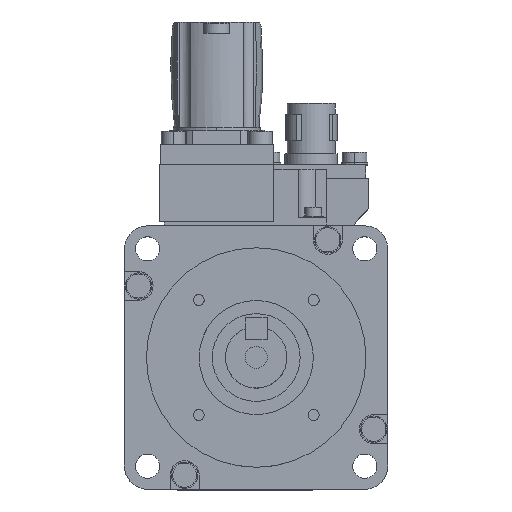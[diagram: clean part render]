
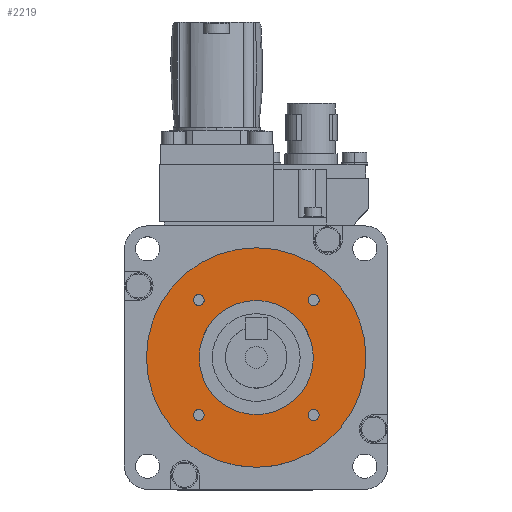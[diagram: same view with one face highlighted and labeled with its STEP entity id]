
A CAD part, top view. The second image highlights one B-rep face of the part: STEP entity #2219.
In plain terms, the highlighted planar face has unit normal (0, 0, 1).
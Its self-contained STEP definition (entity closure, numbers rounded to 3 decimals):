
#211 = VERTEX_POINT ( 'NONE', #6034 ) ;
#212 = EDGE_CURVE ( 'NONE', #215, #211, #6033, .T. ) ;
#215 = VERTEX_POINT ( 'NONE', #6088 ) ;
#245 = EDGE_CURVE ( 'NONE', #257, #259, #6092, .T. ) ;
#257 = VERTEX_POINT ( 'NONE', #6135 ) ;
#259 = VERTEX_POINT ( 'NONE', #6134 ) ;
#266 = VERTEX_POINT ( 'NONE', #6187 ) ;
#279 = VERTEX_POINT ( 'NONE', #6165 ) ;
#280 = EDGE_CURVE ( 'NONE', #279, #266, #6164, .T. ) ;
#303 = VERTEX_POINT ( 'NONE', #6244 ) ;
#304 = VERTEX_POINT ( 'NONE', #6243 ) ;
#312 = EDGE_CURVE ( 'NONE', #304, #303, #6236, .T. ) ;
#551 = EDGE_CURVE ( 'NONE', #828, #757, #6700, .T. ) ;
#677 = VERTEX_POINT ( 'NONE', #6907 ) ;
#681 = VERTEX_POINT ( 'NONE', #6902 ) ;
#685 = EDGE_CURVE ( 'NONE', #681, #677, #6967, .T. ) ;
#757 = VERTEX_POINT ( 'NONE', #7073 ) ;
#828 = VERTEX_POINT ( 'NONE', #7247 ) ;
#2170 = EDGE_LOOP ( 'NONE', ( #2220, #2222 ) ) ;
#2206 = ORIENTED_EDGE ( 'NONE', *, *, #2207, .F. ) ;
#2207 = EDGE_CURVE ( 'NONE', #266, #279, #10012, .T. ) ;
#2208 = ORIENTED_EDGE ( 'NONE', *, *, #280, .F. ) ;
#2209 = EDGE_LOOP ( 'NONE', ( #2210, #2212 ) ) ;
#2210 = ORIENTED_EDGE ( 'NONE', *, *, #2211, .T. ) ;
#2211 = EDGE_CURVE ( 'NONE', #757, #828, #10007, .T. ) ;
#2212 = ORIENTED_EDGE ( 'NONE', *, *, #551, .T. ) ;
#2213 = EDGE_LOOP ( 'NONE', ( #2214, #2215 ) ) ;
#2214 = ORIENTED_EDGE ( 'NONE', *, *, #685, .F. ) ;
#2215 = ORIENTED_EDGE ( 'NONE', *, *, #2216, .F. ) ;
#2216 = EDGE_CURVE ( 'NONE', #677, #681, #10069, .T. ) ;
#2219 = ADVANCED_FACE ( 'NONE', ( #10057, #10056, #10055, #10054, #10053, #10052 ), #10062, .T. ) ;
#2220 = ORIENTED_EDGE ( 'NONE', *, *, #2221, .F. ) ;
#2221 = EDGE_CURVE ( 'NONE', #303, #304, #10047, .T. ) ;
#2222 = ORIENTED_EDGE ( 'NONE', *, *, #312, .F. ) ;
#2223 = EDGE_LOOP ( 'NONE', ( #2224, #2226 ) ) ;
#2224 = ORIENTED_EDGE ( 'NONE', *, *, #2225, .F. ) ;
#2225 = EDGE_CURVE ( 'NONE', #211, #215, #10042, .T. ) ;
#2226 = ORIENTED_EDGE ( 'NONE', *, *, #212, .F. ) ;
#2227 = EDGE_LOOP ( 'NONE', ( #2228, #2230 ) ) ;
#2228 = ORIENTED_EDGE ( 'NONE', *, *, #2229, .F. ) ;
#2229 = EDGE_CURVE ( 'NONE', #259, #257, #10105, .T. ) ;
#2230 = ORIENTED_EDGE ( 'NONE', *, *, #245, .F. ) ;
#2231 = EDGE_LOOP ( 'NONE', ( #2206, #2208 ) ) ;
#6029 = DIRECTION ( 'NONE',  ( -1., 0., 0. ) ) ;
#6030 = DIRECTION ( 'NONE',  ( 0., 0., 1. ) ) ;
#6031 = CARTESIAN_POINT ( 'NONE',  ( -13.081, -13.081, 3. ) ) ;
#6032 = AXIS2_PLACEMENT_3D ( 'NONE', #6031, #6030, #6029 ) ;
#6033 = CIRCLE ( 'NONE', #6032, 1.25 ) ;
#6034 = CARTESIAN_POINT ( 'NONE',  ( -11.831, -13.081, 3. ) ) ;
#6088 = CARTESIAN_POINT ( 'NONE',  ( -14.331, -13.081, 3. ) ) ;
#6089 = DIRECTION ( 'NONE',  ( 0., 0., 1. ) ) ;
#6090 = CARTESIAN_POINT ( 'NONE',  ( -13.081, 13.081, 3. ) ) ;
#6091 = AXIS2_PLACEMENT_3D ( 'NONE', #6090, #6089, #6153 ) ;
#6092 = CIRCLE ( 'NONE', #6091, 1.25 ) ;
#6134 = CARTESIAN_POINT ( 'NONE',  ( -11.831, 13.081, 3. ) ) ;
#6135 = CARTESIAN_POINT ( 'NONE',  ( -14.331, 13.081, 3. ) ) ;
#6153 = DIRECTION ( 'NONE',  ( 0., 1., 0. ) ) ;
#6160 = DIRECTION ( 'NONE',  ( 1., 0., 0. ) ) ;
#6161 = DIRECTION ( 'NONE',  ( 0., 0., 1. ) ) ;
#6162 = CARTESIAN_POINT ( 'NONE',  ( 13.081, 13.081, 3. ) ) ;
#6163 = AXIS2_PLACEMENT_3D ( 'NONE', #6162, #6161, #6160 ) ;
#6164 = CIRCLE ( 'NONE', #6163, 1.25 ) ;
#6165 = CARTESIAN_POINT ( 'NONE',  ( 11.831, 13.081, 3. ) ) ;
#6187 = CARTESIAN_POINT ( 'NONE',  ( 14.331, 13.081, 3. ) ) ;
#6232 = DIRECTION ( 'NONE',  ( 0., -1., 0. ) ) ;
#6233 = DIRECTION ( 'NONE',  ( 0., 0., 1. ) ) ;
#6234 = CARTESIAN_POINT ( 'NONE',  ( 13.081, -13.081, 3. ) ) ;
#6235 = AXIS2_PLACEMENT_3D ( 'NONE', #6234, #6233, #6232 ) ;
#6236 = CIRCLE ( 'NONE', #6235, 1.25 ) ;
#6243 = CARTESIAN_POINT ( 'NONE',  ( 11.831, -13.081, 3. ) ) ;
#6244 = CARTESIAN_POINT ( 'NONE',  ( 14.331, -13.081, 3. ) ) ;
#6696 = DIRECTION ( 'NONE',  ( -1., 0., 0. ) ) ;
#6697 = DIRECTION ( 'NONE',  ( 0., 0., -1. ) ) ;
#6698 = CARTESIAN_POINT ( 'NONE',  ( 0., 0., 3. ) ) ;
#6699 = AXIS2_PLACEMENT_3D ( 'NONE', #6698, #6697, #6696 ) ;
#6700 = CIRCLE ( 'NONE', #6699, 13. ) ;
#6902 = CARTESIAN_POINT ( 'NONE',  ( -25., 0., 3. ) ) ;
#6907 = CARTESIAN_POINT ( 'NONE',  ( 25., 0., 3. ) ) ;
#6963 = DIRECTION ( 'NONE',  ( -1., 0., 0. ) ) ;
#6964 = DIRECTION ( 'NONE',  ( 0., 0., -1. ) ) ;
#6965 = CARTESIAN_POINT ( 'NONE',  ( 0., 0., 3. ) ) ;
#6966 = AXIS2_PLACEMENT_3D ( 'NONE', #6965, #6964, #6963 ) ;
#6967 = CIRCLE ( 'NONE', #6966, 25. ) ;
#7073 = CARTESIAN_POINT ( 'NONE',  ( -13., 0., 3. ) ) ;
#7247 = CARTESIAN_POINT ( 'NONE',  ( 13., 0., 3. ) ) ;
#10007 = CIRCLE ( 'NONE', #10073, 13. ) ;
#10008 = DIRECTION ( 'NONE',  ( 1., 0., 0. ) ) ;
#10009 = DIRECTION ( 'NONE',  ( 0., 0., 1. ) ) ;
#10010 = CARTESIAN_POINT ( 'NONE',  ( 13.081, 13.081, 3. ) ) ;
#10011 = AXIS2_PLACEMENT_3D ( 'NONE', #10010, #10009, #10008 ) ;
#10012 = CIRCLE ( 'NONE', #10011, 1.25 ) ;
#10038 = DIRECTION ( 'NONE',  ( -1., 0., 0. ) ) ;
#10039 = DIRECTION ( 'NONE',  ( 0., 0., 1. ) ) ;
#10040 = CARTESIAN_POINT ( 'NONE',  ( -13.081, -13.081, 3. ) ) ;
#10041 = AXIS2_PLACEMENT_3D ( 'NONE', #10040, #10039, #10038 ) ;
#10042 = CIRCLE ( 'NONE', #10041, 1.25 ) ;
#10043 = DIRECTION ( 'NONE',  ( 0., -1., 0. ) ) ;
#10044 = DIRECTION ( 'NONE',  ( 0., 0., 1. ) ) ;
#10045 = CARTESIAN_POINT ( 'NONE',  ( 13.081, -13.081, 3. ) ) ;
#10046 = AXIS2_PLACEMENT_3D ( 'NONE', #10045, #10044, #10043 ) ;
#10047 = CIRCLE ( 'NONE', #10046, 1.25 ) ;
#10048 = DIRECTION ( 'NONE',  ( 1., 0., 0. ) ) ;
#10049 = DIRECTION ( 'NONE',  ( 0., 0., 1. ) ) ;
#10050 = CARTESIAN_POINT ( 'NONE',  ( 0., 25., 3. ) ) ;
#10051 = AXIS2_PLACEMENT_3D ( 'NONE', #10050, #10049, #10048 ) ;
#10052 = FACE_OUTER_BOUND ( 'NONE', #2213, .T. ) ;
#10053 = FACE_BOUND ( 'NONE', #2209, .T. ) ;
#10054 = FACE_BOUND ( 'NONE', #2231, .T. ) ;
#10055 = FACE_BOUND ( 'NONE', #2227, .T. ) ;
#10056 = FACE_BOUND ( 'NONE', #2223, .T. ) ;
#10057 = FACE_BOUND ( 'NONE', #2170, .T. ) ;
#10062 = PLANE ( 'NONE',  #10051 ) ;
#10065 = DIRECTION ( 'NONE',  ( -1., 0., 0. ) ) ;
#10066 = DIRECTION ( 'NONE',  ( 0., 0., -1. ) ) ;
#10067 = CARTESIAN_POINT ( 'NONE',  ( 0., 0., 3. ) ) ;
#10068 = AXIS2_PLACEMENT_3D ( 'NONE', #10067, #10066, #10065 ) ;
#10069 = CIRCLE ( 'NONE', #10068, 25. ) ;
#10070 = DIRECTION ( 'NONE',  ( -1., 0., 0. ) ) ;
#10071 = DIRECTION ( 'NONE',  ( 0., 0., -1. ) ) ;
#10072 = CARTESIAN_POINT ( 'NONE',  ( 0., 0., 3. ) ) ;
#10073 = AXIS2_PLACEMENT_3D ( 'NONE', #10072, #10071, #10070 ) ;
#10101 = DIRECTION ( 'NONE',  ( 0., 1., 0. ) ) ;
#10102 = DIRECTION ( 'NONE',  ( 0., 0., 1. ) ) ;
#10103 = CARTESIAN_POINT ( 'NONE',  ( -13.081, 13.081, 3. ) ) ;
#10104 = AXIS2_PLACEMENT_3D ( 'NONE', #10103, #10102, #10101 ) ;
#10105 = CIRCLE ( 'NONE', #10104, 1.25 ) ;
